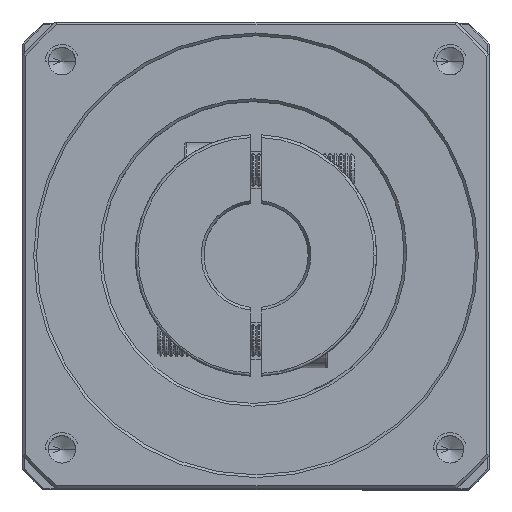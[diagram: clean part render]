
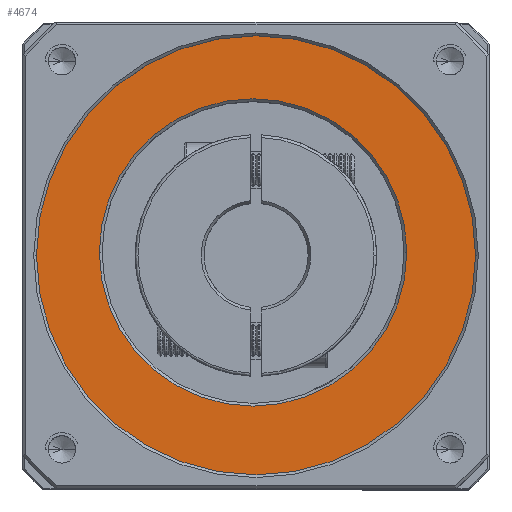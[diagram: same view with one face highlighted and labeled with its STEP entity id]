
A CAD part, top view. The second image highlights one B-rep face of the part: STEP entity #4674.
In plain terms, the highlighted planar face has unit normal (0, 0, 1).
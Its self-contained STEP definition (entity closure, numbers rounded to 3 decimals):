
#4403 = ORIENTED_EDGE ( 'NONE', *, *, #88671, .T. ) ;
#4674 = ADVANCED_FACE ( 'NONE', ( #79802, #59472 ), #67937, .T. ) ;
#7174 = DIRECTION ( 'NONE',  ( 0., 0., 1. ) ) ;
#10679 = AXIS2_PLACEMENT_3D ( 'NONE', #44307, #104706, #53068 ) ;
#12265 = CARTESIAN_POINT ( 'NONE',  ( -88.667, 38.592, 14.807 ) ) ;
#18273 = CARTESIAN_POINT ( 'NONE',  ( -88.125, 38.057, 14.807 ) ) ;
#20209 = CIRCLE ( 'NONE', #10679, 28. ) ;
#21120 = DIRECTION ( 'NONE',  ( 1., 0., 0. ) ) ;
#23810 = EDGE_LOOP ( 'NONE', ( #52637, #92866 ) ) ;
#27103 = DIRECTION ( 'NONE',  ( 1., 0., 0. ) ) ;
#27547 = CIRCLE ( 'NONE', #90687, 40. ) ;
#34991 = CARTESIAN_POINT ( 'NONE',  ( -88.125, 38.057, 14.807 ) ) ;
#40081 = EDGE_LOOP ( 'NONE', ( #4403, #73005 ) ) ;
#42847 = VERTEX_POINT ( 'NONE', #59298 ) ;
#43796 = DIRECTION ( 'NONE',  ( 1., 0., 0. ) ) ;
#44307 = CARTESIAN_POINT ( 'NONE',  ( -88.667, 38.592, 14.807 ) ) ;
#46931 = CARTESIAN_POINT ( 'NONE',  ( -60.667, 38.592, 14.807 ) ) ;
#51256 = AXIS2_PLACEMENT_3D ( 'NONE', #34991, #95603, #43796 ) ;
#52637 = ORIENTED_EDGE ( 'NONE', *, *, #77306, .T. ) ;
#53068 = DIRECTION ( 'NONE',  ( 1., 0., 0. ) ) ;
#59298 = CARTESIAN_POINT ( 'NONE',  ( -128.125, 38.057, 14.807 ) ) ;
#59472 = FACE_BOUND ( 'NONE', #23810, .T. ) ;
#59556 = CARTESIAN_POINT ( 'NONE',  ( -88.125, 38.057, 14.807 ) ) ;
#67937 = PLANE ( 'NONE',  #110036 ) ;
#68289 = DIRECTION ( 'NONE',  ( 1., 0., 0. ) ) ;
#70108 = EDGE_CURVE ( 'NONE', #42847, #98541, #27547, .T. ) ;
#73005 = ORIENTED_EDGE ( 'NONE', *, *, #70108, .T. ) ;
#73354 = DIRECTION ( 'NONE',  ( 0., 0., -1. ) ) ;
#77306 = EDGE_CURVE ( 'NONE', #109191, #84765, #20209, .T. ) ;
#79183 = DIRECTION ( 'NONE',  ( 0., 0., 1. ) ) ;
#79802 = FACE_OUTER_BOUND ( 'NONE', #40081, .T. ) ;
#84748 = CARTESIAN_POINT ( 'NONE',  ( -48.125, 38.057, 14.807 ) ) ;
#84765 = VERTEX_POINT ( 'NONE', #89635 ) ;
#88671 = EDGE_CURVE ( 'NONE', #98541, #42847, #102321, .T. ) ;
#89635 = CARTESIAN_POINT ( 'NONE',  ( -116.667, 38.592, 14.807 ) ) ;
#90687 = AXIS2_PLACEMENT_3D ( 'NONE', #18273, #79183, #27103 ) ;
#92866 = ORIENTED_EDGE ( 'NONE', *, *, #112704, .T. ) ;
#93771 = CIRCLE ( 'NONE', #101577, 28. ) ;
#95603 = DIRECTION ( 'NONE',  ( 0., 0., 1. ) ) ;
#98541 = VERTEX_POINT ( 'NONE', #84748 ) ;
#101577 = AXIS2_PLACEMENT_3D ( 'NONE', #12265, #73354, #21120 ) ;
#102321 = CIRCLE ( 'NONE', #51256, 40. ) ;
#104706 = DIRECTION ( 'NONE',  ( 0., 0., -1. ) ) ;
#109191 = VERTEX_POINT ( 'NONE', #46931 ) ;
#110036 = AXIS2_PLACEMENT_3D ( 'NONE', #59556, #7174, #68289 ) ;
#112704 = EDGE_CURVE ( 'NONE', #84765, #109191, #93771, .T. ) ;
